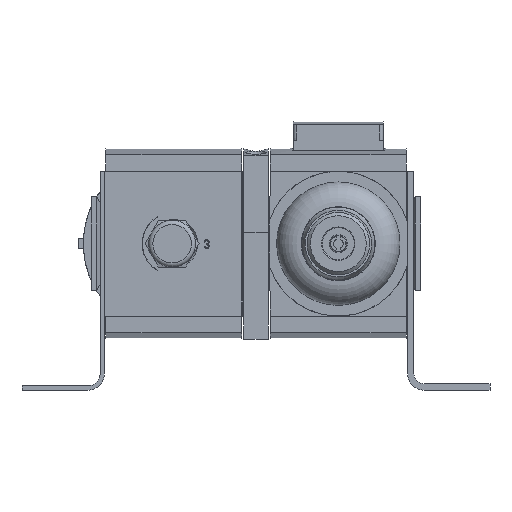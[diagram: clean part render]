
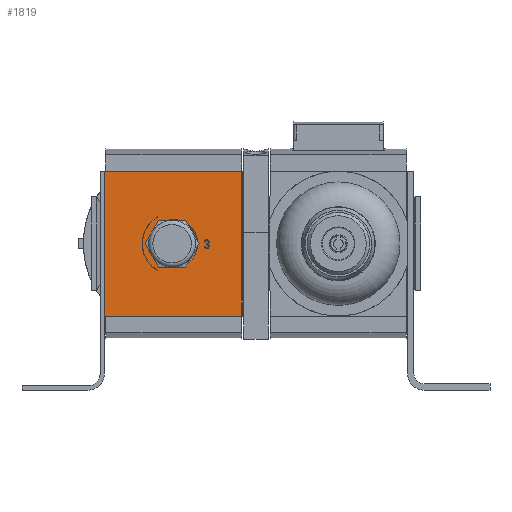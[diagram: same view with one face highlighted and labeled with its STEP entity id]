
A CAD part, front view. The second image highlights one B-rep face of the part: STEP entity #1819.
In plain terms, the highlighted planar face has unit normal (0, -1, 0).
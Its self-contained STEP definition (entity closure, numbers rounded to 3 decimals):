
#1819 = ADVANCED_FACE( '', ( #3691, #3692, #3693, #3694 ), #3695, .F. );
#3691 = FACE_BOUND( '', #5823, .T. );
#3692 = FACE_BOUND( '', #5824, .T. );
#3693 = FACE_BOUND( '', #5825, .T. );
#3694 = FACE_OUTER_BOUND( '', #5826, .T. );
#3695 = PLANE( '', #5827 );
#5823 = EDGE_LOOP( '', ( #10275, #10276, #10277, #10278, #10279, #10280, #10281 ) );
#5824 = EDGE_LOOP( '', ( #10282 ) );
#5825 = EDGE_LOOP( '', ( #10283, #10284, #10285, #10286 ) );
#5826 = EDGE_LOOP( '', ( #10287, #10288, #10289, #10290 ) );
#5827 = AXIS2_PLACEMENT_3D( '', #10291, #10292, #10293 );
#10275 = ORIENTED_EDGE( '', *, *, #13333, .T. );
#10276 = ORIENTED_EDGE( '', *, *, #12688, .T. );
#10277 = ORIENTED_EDGE( '', *, *, #13334, .T. );
#10278 = ORIENTED_EDGE( '', *, *, #13088, .T. );
#10279 = ORIENTED_EDGE( '', *, *, #12542, .F. );
#10280 = ORIENTED_EDGE( '', *, *, #12113, .T. );
#10281 = ORIENTED_EDGE( '', *, *, #12274, .F. );
#10282 = ORIENTED_EDGE( '', *, *, #12655, .F. );
#10283 = ORIENTED_EDGE( '', *, *, #12140, .T. );
#10284 = ORIENTED_EDGE( '', *, *, #12677, .T. );
#10285 = ORIENTED_EDGE( '', *, *, #11541, .F. );
#10286 = ORIENTED_EDGE( '', *, *, #12675, .T. );
#10287 = ORIENTED_EDGE( '', *, *, #12643, .F. );
#10288 = ORIENTED_EDGE( '', *, *, #12495, .F. );
#10289 = ORIENTED_EDGE( '', *, *, #12978, .F. );
#10290 = ORIENTED_EDGE( '', *, *, #12471, .T. );
#10291 = CARTESIAN_POINT( '', ( -5., -25., 22. ) );
#10292 = DIRECTION( '', ( 0., 1., 0. ) );
#10293 = DIRECTION( '', ( 0., 0., 1. ) );
#11541 = EDGE_CURVE( '', #13563, #13564, #13565, .T. );
#12113 = EDGE_CURVE( '', #14570, #14571, #14572, .T. );
#12140 = EDGE_CURVE( '', #14616, #14617, #14618, .T. );
#12274 = EDGE_CURVE( '', #14824, #14571, #14825, .T. );
#12471 = EDGE_CURVE( '', #15138, #15135, #15139, .T. );
#12495 = EDGE_CURVE( '', #15173, #15174, #15175, .T. );
#12542 = EDGE_CURVE( '', #14570, #15245, #15246, .T. );
#12643 = EDGE_CURVE( '', #15174, #15135, #15387, .T. );
#12655 = EDGE_CURVE( '', #15403, #15403, #15404, .T. );
#12675 = EDGE_CURVE( '', #13563, #14616, #15431, .T. );
#12677 = EDGE_CURVE( '', #14617, #13564, #15433, .T. );
#12688 = EDGE_CURVE( '', #15447, #15448, #15449, .T. );
#12978 = EDGE_CURVE( '', #15138, #15173, #15854, .T. );
#13088 = EDGE_CURVE( '', #16007, #15245, #16008, .T. );
#13333 = EDGE_CURVE( '', #14824, #15447, #16304, .T. );
#13334 = EDGE_CURVE( '', #15448, #16007, #16305, .T. );
#13563 = VERTEX_POINT( '', #16548 );
#13564 = VERTEX_POINT( '', #16549 );
#13565 = CIRCLE( '', #16550, 9.5 );
#14570 = VERTEX_POINT( '', #18118 );
#14571 = VERTEX_POINT( '', #18119 );
#14572 = LINE( '', #18120, #18121 );
#14616 = VERTEX_POINT( '', #18180 );
#14617 = VERTEX_POINT( '', #18181 );
#14618 = CIRCLE( '', #18182, 9.6 );
#14824 = VERTEX_POINT( '', #18490 );
#14825 = CIRCLE( '', #18491, 0.5 );
#15135 = VERTEX_POINT( '', #19160 );
#15138 = VERTEX_POINT( '', #19163 );
#15139 = LINE( '', #19164, #19165 );
#15173 = VERTEX_POINT( '', #19214 );
#15174 = VERTEX_POINT( '', #19215 );
#15175 = LINE( '', #19216, #19217 );
#15245 = VERTEX_POINT( '', #19307 );
#15246 = CIRCLE( '', #19308, 0.5 );
#15387 = LINE( '', #19602, #19603 );
#15403 = VERTEX_POINT( '', #19620 );
#15404 = CIRCLE( '', #19621, 7.341 );
#15431 = LINE( '', #19657, #19658 );
#15433 = LINE( '', #19661, #19662 );
#15447 = VERTEX_POINT( '', #19681 );
#15448 = VERTEX_POINT( '', #19682 );
#15449 = CIRCLE( '', #19683, 0.75 );
#15854 = LINE( '', #20299, #20300 );
#16007 = VERTEX_POINT( '', #20519 );
#16008 = LINE( '', #20520, #20521 );
#16304 = LINE( '', #20952, #20953 );
#16305 = CIRCLE( '', #20954, 0.75 );
#16548 = CARTESIAN_POINT( '', ( -5., -25., -8.078 ) );
#16549 = CARTESIAN_POINT( '', ( -5., -25., 8.078 ) );
#16550 = AXIS2_PLACEMENT_3D( '', #21284, #21285, #21286 );
#18118 = CARTESIAN_POINT( '', ( 10., -25., -0.25 ) );
#18119 = CARTESIAN_POINT( '', ( 10., -25., 0. ) );
#18120 = CARTESIAN_POINT( '', ( 10., -25., -0.25 ) );
#18121 = VECTOR( '', #22072, 1000. );
#18180 = CARTESIAN_POINT( '', ( -5., -25., -8.195 ) );
#18181 = CARTESIAN_POINT( '', ( -5., -25., 8.195 ) );
#18182 = AXIS2_PLACEMENT_3D( '', #22103, #22104, #22105 );
#18490 = CARTESIAN_POINT( '', ( 9.5, -25., 0.5 ) );
#18491 = AXIS2_PLACEMENT_3D( '', #22264, #22265, #22266 );
#19160 = CARTESIAN_POINT( '', ( 20.5, -25., -22. ) );
#19163 = CARTESIAN_POINT( '', ( -21., -25., -22. ) );
#19164 = CARTESIAN_POINT( '', ( -5., -25., -22. ) );
#19165 = VECTOR( '', #22494, 1000. );
#19214 = CARTESIAN_POINT( '', ( -21., -25., 22. ) );
#19215 = CARTESIAN_POINT( '', ( 20.5, -25., 22. ) );
#19216 = CARTESIAN_POINT( '', ( -5., -25., 22. ) );
#19217 = VECTOR( '', #22516, 1000. );
#19307 = CARTESIAN_POINT( '', ( 9.5, -25., -0.75 ) );
#19308 = AXIS2_PLACEMENT_3D( '', #22576, #22577, #22578 );
#19602 = CARTESIAN_POINT( '', ( 20.5, -25., 22. ) );
#19603 = VECTOR( '', #22691, 1000. );
#19620 = CARTESIAN_POINT( '', ( 0., -25., -7.341 ) );
#19621 = AXIS2_PLACEMENT_3D( '', #22714, #22715, #22716 );
#19657 = CARTESIAN_POINT( '', ( -5., -25., 22. ) );
#19658 = VECTOR( '', #22738, 1000. );
#19661 = CARTESIAN_POINT( '', ( -5., -25., 22. ) );
#19662 = VECTOR( '', #22740, 1000. );
#19681 = CARTESIAN_POINT( '', ( 9.25, -25., 0.5 ) );
#19682 = CARTESIAN_POINT( '', ( 10.415, -25., -0.125 ) );
#19683 = AXIS2_PLACEMENT_3D( '', #22749, #22750, #22751 );
#20299 = CARTESIAN_POINT( '', ( -21., -25., -22. ) );
#20300 = VECTOR( '', #23083, 1000. );
#20519 = CARTESIAN_POINT( '', ( 9.25, -25., -0.75 ) );
#20520 = CARTESIAN_POINT( '', ( 9.25, -25., -0.75 ) );
#20521 = VECTOR( '', #23194, 1000. );
#20952 = CARTESIAN_POINT( '', ( 9.5, -25., 0.5 ) );
#20953 = VECTOR( '', #23387, 1000. );
#20954 = AXIS2_PLACEMENT_3D( '', #23388, #23389, #23390 );
#21284 = CARTESIAN_POINT( '', ( 0., -25., 0. ) );
#21285 = DIRECTION( '', ( 0., 1., 0. ) );
#21286 = DIRECTION( '', ( 1., 0., 0. ) );
#22072 = DIRECTION( '', ( 0., 0., 1. ) );
#22103 = CARTESIAN_POINT( '', ( 0., -25., 0. ) );
#22104 = DIRECTION( '', ( 0., 1., 0. ) );
#22105 = DIRECTION( '', ( 1., 0., 0. ) );
#22264 = CARTESIAN_POINT( '', ( 10., -25., 0.5 ) );
#22265 = DIRECTION( '', ( 0., 1., 0. ) );
#22266 = DIRECTION( '', ( 1., 0., 0. ) );
#22494 = DIRECTION( '', ( 1., 0., 0. ) );
#22516 = DIRECTION( '', ( 1., 0., 0. ) );
#22576 = CARTESIAN_POINT( '', ( 10., -25., -0.75 ) );
#22577 = DIRECTION( '', ( 0., 1., 0. ) );
#22578 = DIRECTION( '', ( 1., 0., 0. ) );
#22691 = DIRECTION( '', ( 0., 0., -1. ) );
#22714 = CARTESIAN_POINT( '', ( 0., -25., 0. ) );
#22715 = DIRECTION( '', ( 0., -1., 0. ) );
#22716 = DIRECTION( '', ( 0., 0., -1. ) );
#22738 = DIRECTION( '', ( 0., 0., -1. ) );
#22740 = DIRECTION( '', ( 0., 0., -1. ) );
#22749 = CARTESIAN_POINT( '', ( 10., -25., 0.5 ) );
#22750 = DIRECTION( '', ( 0., 1., 0. ) );
#22751 = DIRECTION( '', ( 1., 0., 0. ) );
#23083 = DIRECTION( '', ( 0., 0., 1. ) );
#23194 = DIRECTION( '', ( 1., 0., 0. ) );
#23387 = DIRECTION( '', ( -1., 0., 0. ) );
#23388 = CARTESIAN_POINT( '', ( 10., -25., -0.75 ) );
#23389 = DIRECTION( '', ( 0., 1., 0. ) );
#23390 = DIRECTION( '', ( 1., 0., 0. ) );
